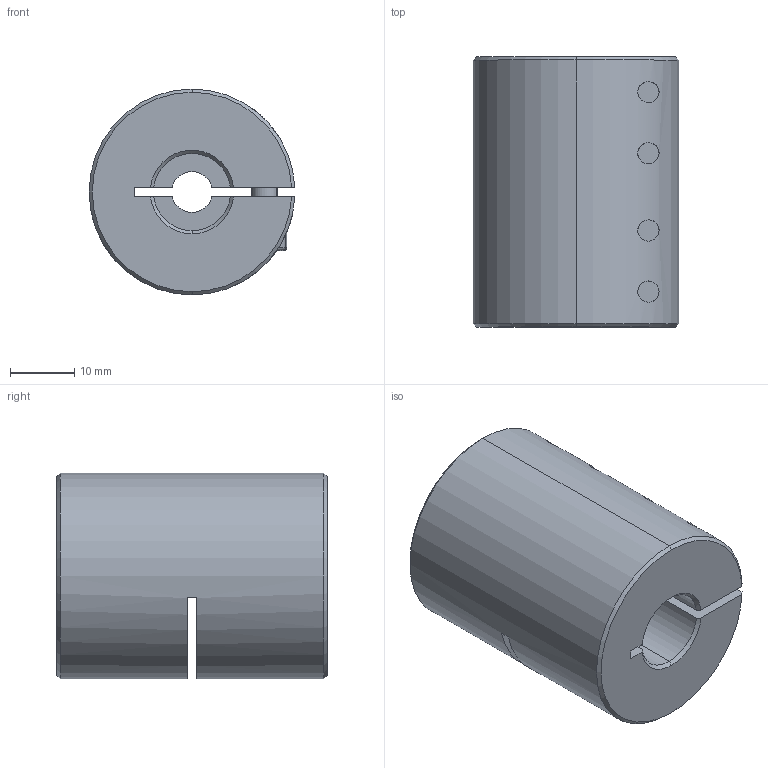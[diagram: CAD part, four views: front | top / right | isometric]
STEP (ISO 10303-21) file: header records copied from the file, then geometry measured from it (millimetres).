
FILE_DESCRIPTION (( 'STEP AP203' ), '1' );
FILE_NAME ('LL-B-D32L42-6.35-12.STEP', '2021-11-05T07:38:20', ( '' ), ( '' ), 'SwSTEP 2.0', 'SolidWorks 2018', '' );
FILE_SCHEMA (( 'CONFIG_CONTROL_DESIGN' ));
Length unit declared in the file: millimetre
Products named in the file (1): LL-B-D32L42-6.35-12
Bounding box: 31.98 x 42 x 32 mm (x, y, z)
Volume: 28233.6 mm3; surface area: 10325.5 mm2
Topology: 1 solids, 1 shells, 193 faces, 492 edges, 309 vertices
Faces by surface type: plane 88, cylinder 77, cone 20, torus 8
Entity records: 6376 total; most frequent: CARTESIAN_POINT 1559, DIRECTION 1037, ORIENTED_EDGE 968, EDGE_CURVE 484, AXIS2_PLACEMENT_3D 403, VERTEX_POINT 309, VECTOR 231, LINE 231
